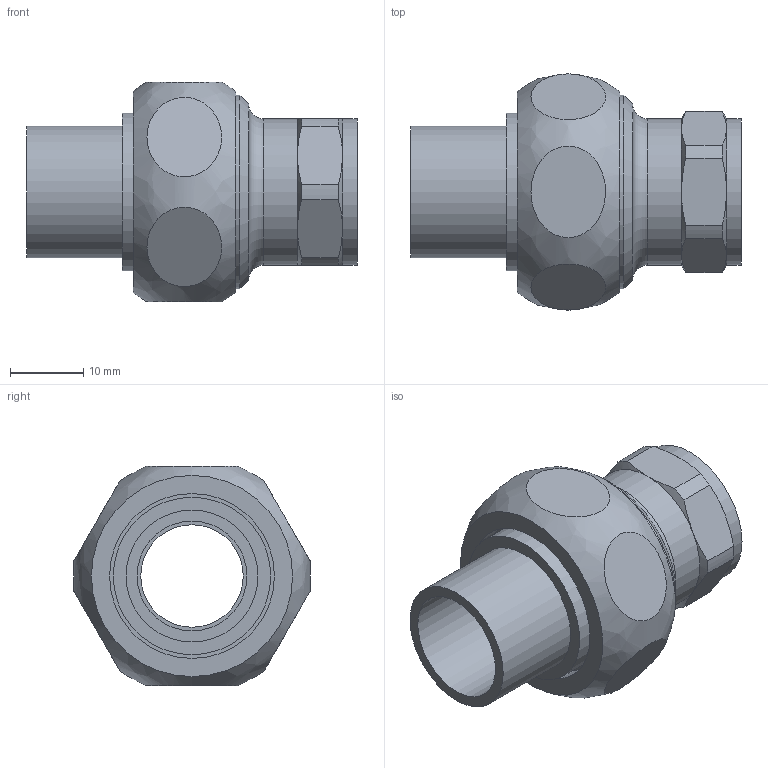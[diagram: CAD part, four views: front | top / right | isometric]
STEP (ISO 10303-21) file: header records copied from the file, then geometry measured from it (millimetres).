
FILE_DESCRIPTION(/* description */ (''),/* implementation_level */ '2;1');
FILE_NAME(/* name */ '\\lg50011\SANHA_LEGNICA\Engineering\Public\RYSUNKI\SANHA POLSKA\4340\inventor\14340_15-38(1).stp',/* time_stamp */ '2021-02-10T14:26:07+01:00',/* author */ ('gomulka'),/* organization */ (''),/* preprocessor_version */ 'ST-DEVELOPER v18.1',/* originating_system */ 'Autodesk Inventor 2021',/* authorisation */ '');
FILE_SCHEMA (('AUTOMOTIVE_DESIGN { 1 0 10303 214 3 1 1 }','AP242_MANAGED_MODEL_BASED_3D_ENGINEERING_MIM_LF { 1 0 10303 442 1 1 4 }'));
Length unit declared in the file: millimetre
Products named in the file (4): 14340_15-38(1); 14381_15-34(1); 14374_34(2); 14380_38-34(0)
Assembly tree (3 placements, depth 2):
  14340_15-38(1)
    14381_15-34(1)
    14374_34(2)
    14380_38-34(0)
Bounding box: 45.1 x 32.23 x 30 mm (x, y, z)
Volume: 12275.4 mm3; surface area: 9209.3 mm2
Topology: 3 solids, 3 shells, 63 faces, 154 edges, 108 vertices
Faces by surface type: plane 24, cylinder 19, cone 17, torus 2, bspline 1
Full cylindrical faces by diameter (mm): 14 x2, 14.95 x1, 15 x1, 18 x1, 20 x2, 21 x1, 21.5 x1, 22.5 x1, 23.5 x1, 24.117 x1, 26.441 x1
Entity records: 2425 total; most frequent: CARTESIAN_POINT 753, DIRECTION 350, ORIENTED_EDGE 308, AXIS2_PLACEMENT_3D 160, EDGE_CURVE 154, VERTEX_POINT 108, CIRCLE 91, EDGE_LOOP 80
